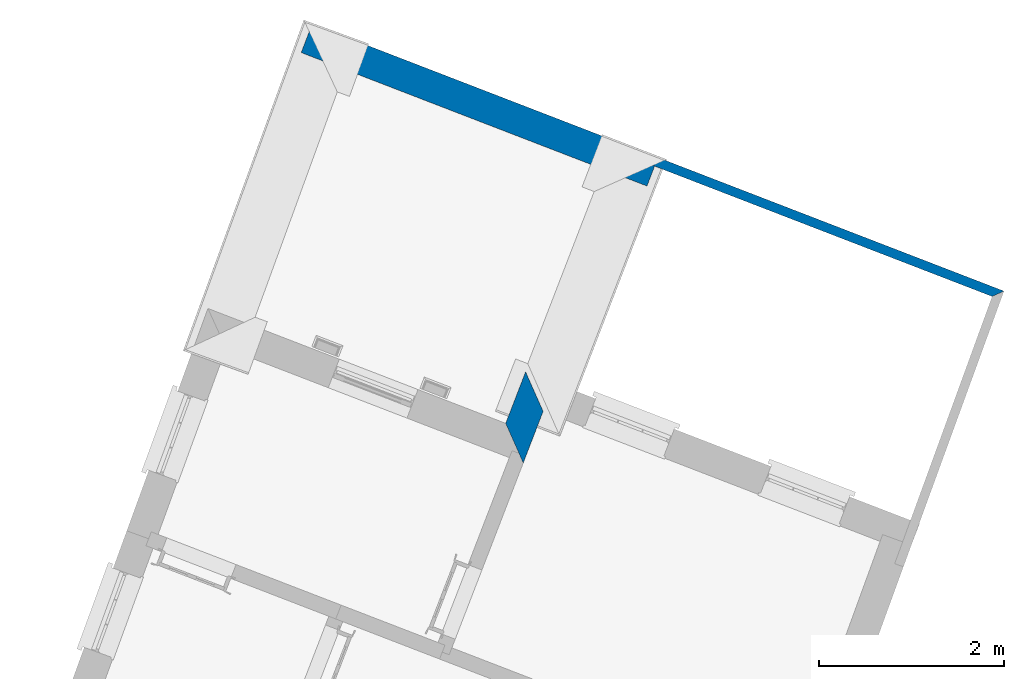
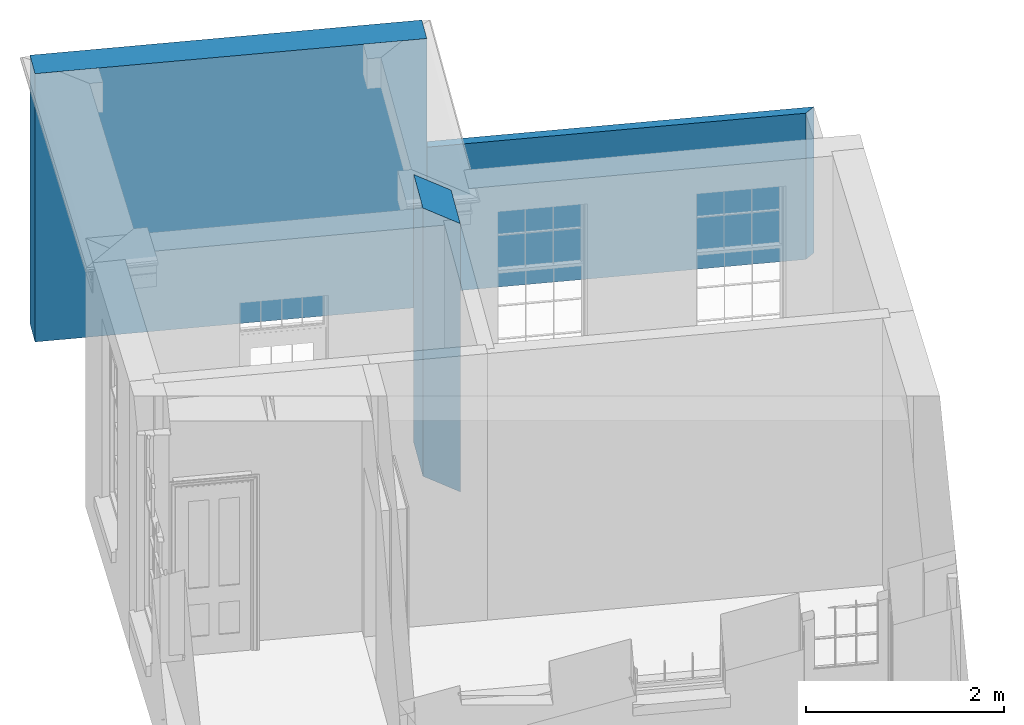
# One storey, part 6 of 6: 3 walls.
"""IFC4 building model written with IfcOpenShell, lengths in metres."""

from ifc_helpers import new_model, si_unit, frame, origin_with_axes, place, context, subcontext, project, spatial, polyline, outline, extrude, material, layer, layer_set, layer_usage, type_object, element, save


model = new_model("IFC4")

# Units and contexts
model_context = context("Model", 3, world=origin_with_axes())
body_context = subcontext(model_context, "Body", "Model", "MODEL_VIEW")
ifc_project = project(units=[si_unit("PLANEANGLEUNIT", "RADIAN"), si_unit("MASSUNIT", "GRAM", prefix="KILO"), si_unit("FORCEUNIT", "NEWTON", prefix="KILO"), si_unit("LENGTHUNIT", "METRE"), si_unit("AREAUNIT", "SQUARE_METRE"), si_unit("VOLUMEUNIT", "CUBIC_METRE")], contexts=[model_context, model_context])

# Sites, building, storey
site_1_placement = place(None, origin_with_axes())
site_1 = spatial("IfcSite", under=ifc_project, at=site_1_placement, Name="Tamar")
site_2_placement = place(site_1_placement, origin_with_axes())
site_2 = spatial("IfcSite", under=site_1, at=site_2_placement, Name="Site plot-11", CompositionType="ELEMENT")
building_placement = place(None, origin_with_axes())
building = spatial("IfcBuilding", under=site_2, at=building_placement, Name="Building plot-11", CompositionType="ELEMENT")
storey_placement = place(None, frame((0.0, 0.0, 26.8), z_axis=(0.0, 0.0, 1.0), x_axis=(1.0, 0.0, 0.0)))
storey = spatial("IfcBuildingStorey", under=building, at=storey_placement, Name="plot-11 0", CompositionType="ELEMENT", Elevation=26.8)

# Walls
ifc_material_1 = material(Name="Masonry")
ifc_layer_1 = layer(ifc_material_1, 0.33, ventilated=False)
ifc_layer_set_1 = layer_set([ifc_layer_1], Name="exterior_0.08_0.25")
ifc_layer_usage_1 = layer_usage(ifc_layer_set_1, "AXIS2", "POSITIVE", -0.25)
wall_type_1 = type_object("IfcWallType", Name="exterior_0.08_0.25", PredefinedType="SOLIDWALL", material=ifc_layer_set_1)
wall_1_placement = place(storey_placement, frame((244.496539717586, 316.509129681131, 0.0), z_axis=(0.0, 0.0, 1.0), x_axis=(-0.360068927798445, -0.932925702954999, 0.0)))
element("IfcWall", 1, at=wall_1_placement, inside=storey, type_object=wall_type_1, material=ifc_layer_usage_1, Name="exterior", context=body_context, shape_type="SweptSolid", body=[
    extrude(outline(polyline([(0.079999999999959, 0.0800000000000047), (-0.249999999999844, -0.250000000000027), (0.346455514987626, -0.250000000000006), (0.676455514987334, 0.079999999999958), (0.079999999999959, 0.0800000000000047)])), origin_with_axes(), (0.0, 0.0, 1.0), 3.3),
])
ifc_material_2 = material(Name="Masonry")
ifc_layer_2 = layer(ifc_material_2, 0.33, ventilated=False)
ifc_layer_set_2 = layer_set([ifc_layer_2], Name="party_0.08_0.25")
ifc_layer_usage_2 = layer_usage(ifc_layer_set_2, "AXIS2", "POSITIVE", -0.25)
wall_type_2 = type_object("IfcWallType", Name="party_0.08_0.25", PredefinedType="SOLIDWALL", material=ifc_layer_set_2)
wall_2_placement = place(storey_placement, frame((245.457654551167, 318.999343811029, 0.0), z_axis=(0.0, 0.0, 1.0), x_axis=(-0.93292570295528, 0.360068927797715, 0.0)))
element("IfcWall", 2, at=wall_2_placement, inside=storey, type_object=wall_type_2, material=ifc_layer_usage_2, Name="party", context=body_context, shape_type="SweptSolid", body=[
    extrude(outline(polyline([(-0.250000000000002, 0.0800000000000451), (-0.249999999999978, -0.24999999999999), (3.74729655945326, -0.250000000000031), (3.74729655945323, 0.080000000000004), (-0.250000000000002, 0.0800000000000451)])), origin_with_axes(), (0.0, 0.0, 1.0), 3.3),
])
ifc_material_3 = material(Name="Masonry")
ifc_layer_3 = layer(ifc_material_3, 0.1, ventilated=False)
ifc_layer_set_3 = layer_set([ifc_layer_3], Name="fence_-0.15_0.25")
ifc_layer_usage_3 = layer_usage(ifc_layer_set_3, "AXIS2", "POSITIVE", -0.25)
wall_type_3 = type_object("IfcWallType", Name="fence_-0.15_0.25", PredefinedType="SOLIDWALL", material=ifc_layer_set_3)
wall_3_placement = place(storey_placement, frame((249.193079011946, 317.557631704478, 0.0), z_axis=(0.0, 0.0, 1.0), x_axis=(-0.932925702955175, 0.360068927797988, 0.0)))
element("IfcWall", 3, at=wall_3_placement, inside=storey, type_object=wall_type_3, material=ifc_layer_usage_3, Name="fence", context=body_context, shape_type="SweptSolid", body=[
    extrude(outline(polyline([(-0.147248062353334, -0.150000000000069), (-0.245413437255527, -0.249999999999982), (4.2539892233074, -0.249999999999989), (4.25398922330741, -0.150000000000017), (-0.147248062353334, -0.150000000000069)])), origin_with_axes(), (0.0, 0.0, 1.0), 1.8),
])

save(model, "model.ifc")
